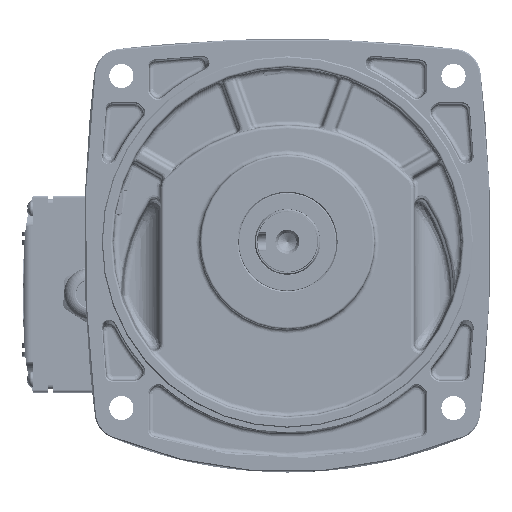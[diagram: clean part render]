
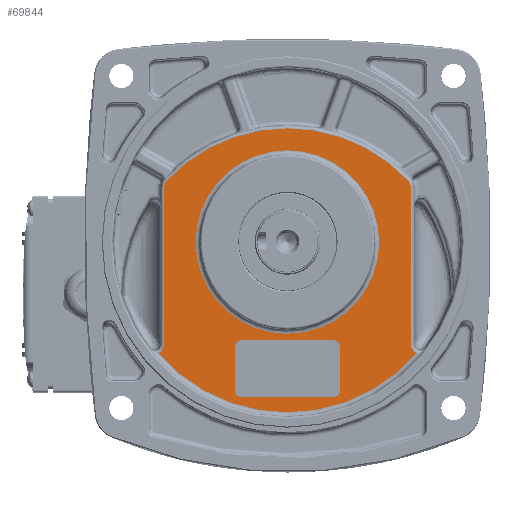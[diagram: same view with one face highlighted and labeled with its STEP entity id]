
A CAD part, top view. The second image highlights one B-rep face of the part: STEP entity #69844.
In plain terms, the highlighted planar face has unit normal (0, 0, 1).
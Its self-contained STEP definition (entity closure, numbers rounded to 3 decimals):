
#3968=B_SPLINE_CURVE_WITH_KNOTS('',3,(#147745,#147746,#147747,#147748),
 .UNSPECIFIED.,.F.,.F.,(4,4),(0.,0.336),.UNSPECIFIED.);
#3969=B_SPLINE_CURVE_WITH_KNOTS('',3,(#147776,#147777,#147778,#147779),
 .UNSPECIFIED.,.F.,.F.,(4,4),(0.,0.336),.UNSPECIFIED.);
#3971=B_SPLINE_CURVE_WITH_KNOTS('',3,(#147832,#147833,#147834,#147835,#147836),
 .UNSPECIFIED.,.F.,.F.,(4,1,4),(0.,0.318,0.51),
 .UNSPECIFIED.);
#4078=B_SPLINE_CURVE_WITH_KNOTS('',3,(#149957,#149958,#149959,#149960,#149961),
 .UNSPECIFIED.,.F.,.F.,(4,1,4),(0.603,0.795,1.113),
 .UNSPECIFIED.);
#8118=FACE_BOUND('',#17058,.T.);
#8119=FACE_BOUND('',#17059,.T.);
#9180=PLANE('',#76421);
#12750=FACE_OUTER_BOUND('',#17057,.T.);
#17057=EDGE_LOOP('',(#60845,#60846,#60847,#60848,#60849,#60850,#60851,#60852));
#17058=EDGE_LOOP('',(#60853,#60854,#60855,#60856,#60857,#60858,#60859,#60860));
#17059=EDGE_LOOP('',(#60861));
#20697=LINE('',#147716,#24210);
#20698=LINE('',#147782,#24211);
#20755=LINE('',#149964,#24268);
#20756=LINE('',#149968,#24269);
#20757=LINE('',#149972,#24270);
#20758=LINE('',#149976,#24271);
#24210=VECTOR('',#91336,10.);
#24211=VECTOR('',#91353,10.);
#24268=VECTOR('',#91796,10.);
#24269=VECTOR('',#91799,10.);
#24270=VECTOR('',#91802,10.);
#24271=VECTOR('',#91805,10.);
#28145=CIRCLE('',#76225,75.535);
#28170=CIRCLE('',#76263,42.);
#28269=CIRCLE('',#76422,77.963);
#28270=CIRCLE('',#76423,3.);
#28271=CIRCLE('',#76424,3.);
#28272=CIRCLE('',#76425,3.);
#28273=CIRCLE('',#76426,3.);
#33728=VERTEX_POINT('',#147713);
#33729=VERTEX_POINT('',#147715);
#33731=VERTEX_POINT('',#147739);
#33732=VERTEX_POINT('',#147750);
#33733=VERTEX_POINT('',#147774);
#33734=VERTEX_POINT('',#147781);
#33735=VERTEX_POINT('',#147819);
#33767=VERTEX_POINT('',#148003);
#33904=VERTEX_POINT('',#149955);
#33905=VERTEX_POINT('',#149962);
#33906=VERTEX_POINT('',#149963);
#33907=VERTEX_POINT('',#149965);
#33908=VERTEX_POINT('',#149967);
#33909=VERTEX_POINT('',#149969);
#33910=VERTEX_POINT('',#149971);
#33911=VERTEX_POINT('',#149973);
#33912=VERTEX_POINT('',#149975);
#42849=EDGE_CURVE('',#33728,#33729,#20697,.T.);
#42853=EDGE_CURVE('',#33729,#33731,#3968,.T.);
#42854=EDGE_CURVE('',#33731,#33732,#28145,.T.);
#42858=EDGE_CURVE('',#33732,#33733,#3969,.T.);
#42859=EDGE_CURVE('',#33733,#33734,#20698,.T.);
#42862=EDGE_CURVE('',#33734,#33735,#3971,.T.);
#42905=EDGE_CURVE('',#33767,#33767,#28170,.T.);
#43144=EDGE_CURVE('',#33735,#33904,#28269,.T.);
#43145=EDGE_CURVE('',#33904,#33728,#4078,.T.);
#43146=EDGE_CURVE('',#33905,#33906,#20755,.T.);
#43147=EDGE_CURVE('',#33907,#33906,#28270,.T.);
#43148=EDGE_CURVE('',#33907,#33908,#20756,.T.);
#43149=EDGE_CURVE('',#33909,#33908,#28271,.T.);
#43150=EDGE_CURVE('',#33909,#33910,#20757,.T.);
#43151=EDGE_CURVE('',#33911,#33910,#28272,.T.);
#43152=EDGE_CURVE('',#33911,#33912,#20758,.T.);
#43153=EDGE_CURVE('',#33905,#33912,#28273,.T.);
#60845=ORIENTED_EDGE('',*,*,#43144,.F.);
#60846=ORIENTED_EDGE('',*,*,#42862,.F.);
#60847=ORIENTED_EDGE('',*,*,#42859,.F.);
#60848=ORIENTED_EDGE('',*,*,#42858,.F.);
#60849=ORIENTED_EDGE('',*,*,#42854,.F.);
#60850=ORIENTED_EDGE('',*,*,#42853,.F.);
#60851=ORIENTED_EDGE('',*,*,#42849,.F.);
#60852=ORIENTED_EDGE('',*,*,#43145,.F.);
#60853=ORIENTED_EDGE('',*,*,#43146,.T.);
#60854=ORIENTED_EDGE('',*,*,#43147,.F.);
#60855=ORIENTED_EDGE('',*,*,#43148,.T.);
#60856=ORIENTED_EDGE('',*,*,#43149,.F.);
#60857=ORIENTED_EDGE('',*,*,#43150,.T.);
#60858=ORIENTED_EDGE('',*,*,#43151,.F.);
#60859=ORIENTED_EDGE('',*,*,#43152,.T.);
#60860=ORIENTED_EDGE('',*,*,#43153,.F.);
#60861=ORIENTED_EDGE('',*,*,#42905,.F.);
#69844=ADVANCED_FACE('',(#12750,#8118,#8119),#9180,.F.);
#76225=AXIS2_PLACEMENT_3D('',#147751,#91343,#91344);
#76263=AXIS2_PLACEMENT_3D('',#148005,#91437,#91438);
#76421=AXIS2_PLACEMENT_3D('',#149954,#91792,#91793);
#76422=AXIS2_PLACEMENT_3D('',#149956,#91794,#91795);
#76423=AXIS2_PLACEMENT_3D('',#149966,#91797,#91798);
#76424=AXIS2_PLACEMENT_3D('',#149970,#91800,#91801);
#76425=AXIS2_PLACEMENT_3D('',#149974,#91803,#91804);
#76426=AXIS2_PLACEMENT_3D('',#149977,#91806,#91807);
#91336=DIRECTION('',(0.,1.,0.));
#91343=DIRECTION('center_axis',(0.,0.,-1.));
#91344=DIRECTION('ref_axis',(0.,1.,0.));
#91353=DIRECTION('',(0.,-1.,0.));
#91437=DIRECTION('center_axis',(0.,0.,1.));
#91438=DIRECTION('ref_axis',(-1.,0.,0.));
#91792=DIRECTION('center_axis',(0.,0.,-1.));
#91793=DIRECTION('ref_axis',(-1.,0.,0.));
#91794=DIRECTION('center_axis',(0.,0.,-1.));
#91795=DIRECTION('ref_axis',(0.,-1.,0.));
#91796=DIRECTION('',(0.,1.,0.));
#91797=DIRECTION('center_axis',(0.,0.,1.));
#91798=DIRECTION('ref_axis',(-0.707,0.707,0.));
#91799=DIRECTION('',(1.,0.,0.));
#91800=DIRECTION('center_axis',(0.,0.,1.));
#91801=DIRECTION('ref_axis',(0.707,0.707,0.));
#91802=DIRECTION('',(0.,-1.,0.));
#91803=DIRECTION('center_axis',(0.,0.,1.));
#91804=DIRECTION('ref_axis',(0.707,-0.707,0.));
#91805=DIRECTION('',(-1.,0.,0.));
#91806=DIRECTION('center_axis',(0.,0.,1.));
#91807=DIRECTION('ref_axis',(-0.707,-0.707,0.));
#147713=CARTESIAN_POINT('',(-53.609,-23.142,56.));
#147715=CARTESIAN_POINT('',(-53.609,48.472,56.));
#147716=CARTESIAN_POINT('',(-53.609,-35.67,56.));
#147739=CARTESIAN_POINT('',(-52.402,51.541,56.));
#147745=CARTESIAN_POINT('Ctrl Pts',(-53.609,48.472,56.));
#147746=CARTESIAN_POINT('Ctrl Pts',(-53.609,49.591,56.));
#147747=CARTESIAN_POINT('Ctrl Pts',(-53.165,50.722,
56.));
#147748=CARTESIAN_POINT('Ctrl Pts',(-52.402,51.541,
56.));
#147750=CARTESIAN_POINT('',(58.184,51.541,56.));
#147751=CARTESIAN_POINT('Origin',(2.891,0.08,56.));
#147774=CARTESIAN_POINT('',(59.391,48.472,56.));
#147776=CARTESIAN_POINT('Ctrl Pts',(58.184,51.541,56.));
#147777=CARTESIAN_POINT('Ctrl Pts',(58.946,50.722,56.));
#147778=CARTESIAN_POINT('Ctrl Pts',(59.391,49.591,56.));
#147779=CARTESIAN_POINT('Ctrl Pts',(59.391,48.472,56.));
#147781=CARTESIAN_POINT('',(59.391,-23.142,56.));
#147782=CARTESIAN_POINT('',(59.391,-35.67,56.));
#147819=CARTESIAN_POINT('',(62.014,-27.239,56.));
#147832=CARTESIAN_POINT('Ctrl Pts',(59.391,-23.142,
56.));
#147833=CARTESIAN_POINT('Ctrl Pts',(59.391,-24.202,
56.));
#147834=CARTESIAN_POINT('Ctrl Pts',(60.023,-25.914,
56.));
#147835=CARTESIAN_POINT('Ctrl Pts',(61.43,-26.963,
56.));
#147836=CARTESIAN_POINT('Ctrl Pts',(62.016,-27.235,
56.));
#148003=CARTESIAN_POINT('',(44.891,23.58,56.));
#148005=CARTESIAN_POINT('Origin',(2.891,23.58,56.));
#149954=CARTESIAN_POINT('Origin',(2.891,0.08,56.));
#149955=CARTESIAN_POINT('',(-56.233,-27.239,56.));
#149956=CARTESIAN_POINT('Origin',(2.891,23.58,56.));
#149957=CARTESIAN_POINT('Ctrl Pts',(-56.235,-27.235,
56.));
#149958=CARTESIAN_POINT('Ctrl Pts',(-55.648,-26.963,
56.));
#149959=CARTESIAN_POINT('Ctrl Pts',(-54.241,-25.914,
56.));
#149960=CARTESIAN_POINT('Ctrl Pts',(-53.609,-24.202,
56.));
#149961=CARTESIAN_POINT('Ctrl Pts',(-53.609,-23.142,56.));
#149962=CARTESIAN_POINT('',(-21.109,-44.42,56.));
#149963=CARTESIAN_POINT('',(-21.109,-24.42,56.));
#149964=CARTESIAN_POINT('',(-21.109,-10.67,56.));
#149965=CARTESIAN_POINT('',(-18.109,-21.42,56.));
#149966=CARTESIAN_POINT('Origin',(-18.109,-24.42,56.));
#149967=CARTESIAN_POINT('',(23.891,-21.42,56.));
#149968=CARTESIAN_POINT('',(14.891,-21.42,56.));
#149969=CARTESIAN_POINT('',(26.891,-24.42,56.));
#149970=CARTESIAN_POINT('Origin',(23.891,-24.42,56.));
#149971=CARTESIAN_POINT('',(26.891,-44.42,56.));
#149972=CARTESIAN_POINT('',(26.891,-23.67,56.));
#149973=CARTESIAN_POINT('',(23.891,-47.42,56.));
#149974=CARTESIAN_POINT('Origin',(23.891,-44.42,56.));
#149975=CARTESIAN_POINT('',(-18.109,-47.42,56.));
#149976=CARTESIAN_POINT('',(-9.109,-47.42,56.));
#149977=CARTESIAN_POINT('Origin',(-18.109,-44.42,56.));
